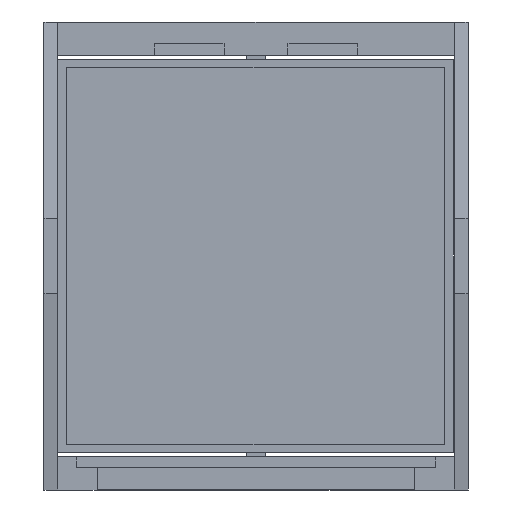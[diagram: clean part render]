
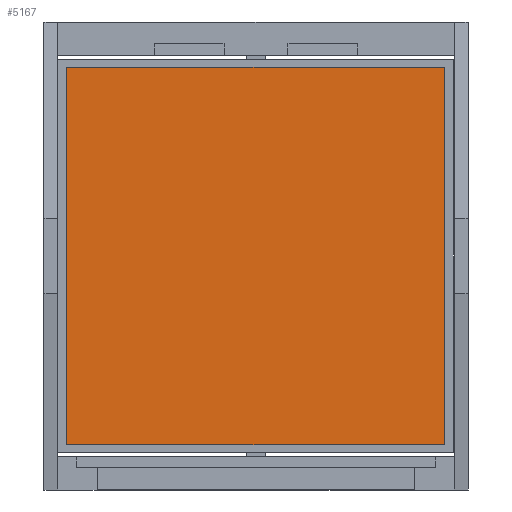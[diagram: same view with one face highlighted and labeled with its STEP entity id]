
A CAD part, front view. The second image highlights one B-rep face of the part: STEP entity #5167.
In plain terms, the highlighted planar face has unit normal (0, -1, 0).
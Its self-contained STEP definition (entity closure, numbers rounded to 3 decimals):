
#31 = VECTOR ( 'NONE', #1069, 1000. ) ;
#117 = DIRECTION ( 'NONE',  ( 0., 1., 0. ) ) ;
#587 = ORIENTED_EDGE ( 'NONE', *, *, #866, .F. ) ;
#755 = EDGE_CURVE ( 'NONE', #2050, #3714, #7995, .T. ) ;
#866 = EDGE_CURVE ( 'NONE', #3714, #1243, #6661, .T. ) ;
#1069 = DIRECTION ( 'NONE',  ( 0., 0., -1. ) ) ;
#1243 = VERTEX_POINT ( 'NONE', #7102 ) ;
#1409 = VECTOR ( 'NONE', #8773, 1000. ) ;
#1514 = EDGE_LOOP ( 'NONE', ( #2026, #1766, #5192, #587 ) ) ;
#1583 = PLANE ( 'NONE',  #5083 ) ;
#1766 = ORIENTED_EDGE ( 'NONE', *, *, #3665, .F. ) ;
#1994 = DIRECTION ( 'NONE',  ( -1., 0., 0. ) ) ;
#2026 = ORIENTED_EDGE ( 'NONE', *, *, #755, .F. ) ;
#2035 = VECTOR ( 'NONE', #4631, 1000. ) ;
#2050 = VERTEX_POINT ( 'NONE', #8243 ) ;
#2974 = VERTEX_POINT ( 'NONE', #3235 ) ;
#3063 = DIRECTION ( 'NONE',  ( 0., 0., 1. ) ) ;
#3235 = CARTESIAN_POINT ( 'NONE',  ( 24.524, -2.324, -20.423 ) ) ;
#3371 = CARTESIAN_POINT ( 'NONE',  ( -13.476, -2.324, 17.577 ) ) ;
#3473 = CARTESIAN_POINT ( 'NONE',  ( -13.476, -2.324, -20.423 ) ) ;
#3665 = EDGE_CURVE ( 'NONE', #2974, #2050, #4238, .T. ) ;
#3714 = VERTEX_POINT ( 'NONE', #3371 ) ;
#3825 = CARTESIAN_POINT ( 'NONE',  ( -13.476, -2.324, 17.577 ) ) ;
#3914 = CARTESIAN_POINT ( 'NONE',  ( 24.524, -2.324, -20.423 ) ) ;
#3969 = VECTOR ( 'NONE', #1994, 1000. ) ;
#4238 = LINE ( 'NONE', #3473, #3969 ) ;
#4504 = CARTESIAN_POINT ( 'NONE',  ( -13.476, -2.324, 17.577 ) ) ;
#4631 = DIRECTION ( 'NONE',  ( 1., 0., 0. ) ) ;
#5083 = AXIS2_PLACEMENT_3D ( 'NONE', #4504, #117, #3063 ) ;
#5167 = ADVANCED_FACE ( 'NONE', ( #8159 ), #1583, .F. ) ;
#5192 = ORIENTED_EDGE ( 'NONE', *, *, #9251, .F. ) ;
#6661 = LINE ( 'NONE', #3825, #2035 ) ;
#6790 = LINE ( 'NONE', #3914, #31 ) ;
#7102 = CARTESIAN_POINT ( 'NONE',  ( 24.524, -2.324, 17.577 ) ) ;
#7995 = LINE ( 'NONE', #8721, #1409 ) ;
#8159 = FACE_OUTER_BOUND ( 'NONE', #1514, .T. ) ;
#8243 = CARTESIAN_POINT ( 'NONE',  ( -13.476, -2.324, -20.423 ) ) ;
#8721 = CARTESIAN_POINT ( 'NONE',  ( -13.476, -2.324, -20.423 ) ) ;
#8773 = DIRECTION ( 'NONE',  ( 0., 0., 1. ) ) ;
#9251 = EDGE_CURVE ( 'NONE', #1243, #2974, #6790, .T. ) ;
